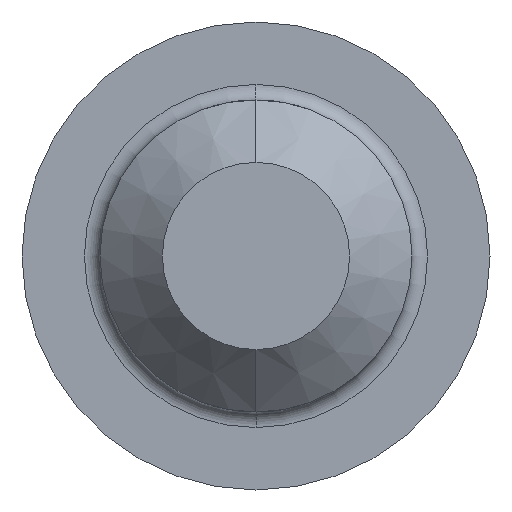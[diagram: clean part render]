
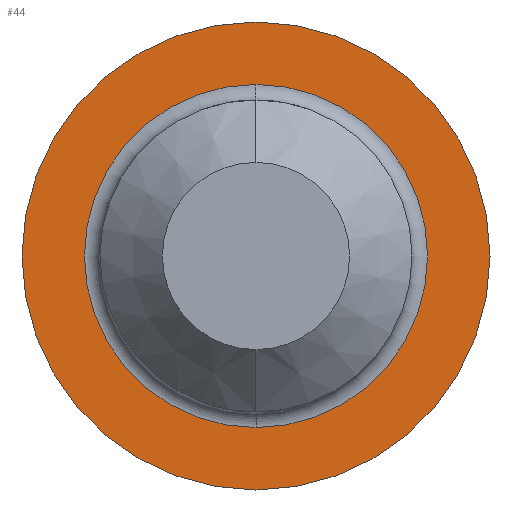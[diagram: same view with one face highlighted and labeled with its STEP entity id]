
A CAD part, left-side view. The second image highlights one B-rep face of the part: STEP entity #44.
In plain terms, the highlighted planar face has unit normal (-1, 0, 0).
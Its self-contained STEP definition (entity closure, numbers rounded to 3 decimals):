
#6 = VERTEX_POINT ( 'NONE', #307 ) ;
#7 = ORIENTED_EDGE ( 'NONE', *, *, #149, .T. ) ;
#9 = EDGE_LOOP ( 'NONE', ( #7, #21 ) ) ;
#11 = EDGE_CURVE ( 'NONE', #155, #6, #278, .T. ) ;
#19 = EDGE_CURVE ( 'NONE', #102, #77, #303, .T. ) ;
#21 = ORIENTED_EDGE ( 'NONE', *, *, #11, .T. ) ;
#22 = ORIENTED_EDGE ( 'NONE', *, *, #19, .T. ) ;
#44 = ADVANCED_FACE ( 'NONE', ( #269, #276 ), #272, .F. ) ;
#47 = ORIENTED_EDGE ( 'NONE', *, *, #76, .T. ) ;
#62 = EDGE_LOOP ( 'NONE', ( #22, #47 ) ) ;
#76 = EDGE_CURVE ( 'NONE', #77, #102, #318, .T. ) ;
#77 = VERTEX_POINT ( 'NONE', #326 ) ;
#102 = VERTEX_POINT ( 'NONE', #286 ) ;
#149 = EDGE_CURVE ( 'NONE', #6, #155, #467, .T. ) ;
#155 = VERTEX_POINT ( 'NONE', #462 ) ;
#226 = DIRECTION ( 'NONE',  ( 1., 0., 0. ) ) ;
#227 = CARTESIAN_POINT ( 'NONE',  ( 0., 4.5, 0. ) ) ;
#241 = DIRECTION ( 'NONE',  ( 0., 0., -1. ) ) ;
#242 = DIRECTION ( 'NONE',  ( 1., 0., 0. ) ) ;
#244 = CARTESIAN_POINT ( 'NONE',  ( 0., 0., 0. ) ) ;
#263 = DIRECTION ( 'NONE',  ( 0., 0., -1. ) ) ;
#269 = FACE_BOUND ( 'NONE', #62, .T. ) ;
#272 = PLANE ( 'NONE',  #302 ) ;
#276 = FACE_OUTER_BOUND ( 'NONE', #9, .T. ) ;
#278 = CIRCLE ( 'NONE', #296, 4.5 ) ;
#286 = CARTESIAN_POINT ( 'NONE',  ( 0., 0., -3.3 ) ) ;
#293 = DIRECTION ( 'NONE',  ( 0., 0., 1. ) ) ;
#294 = DIRECTION ( 'NONE',  ( -1., 0., 0. ) ) ;
#295 = CARTESIAN_POINT ( 'NONE',  ( 0., 0., 0. ) ) ;
#296 = AXIS2_PLACEMENT_3D ( 'NONE', #295, #294, #293 ) ;
#300 = DIRECTION ( 'NONE',  ( 0., 0., -1. ) ) ;
#301 = DIRECTION ( 'NONE',  ( 1., 0., 0. ) ) ;
#302 = AXIS2_PLACEMENT_3D ( 'NONE', #227, #226, #263 ) ;
#303 = CIRCLE ( 'NONE', #349, 3.3 ) ;
#307 = CARTESIAN_POINT ( 'NONE',  ( 0., 0., 4.5 ) ) ;
#318 = CIRCLE ( 'NONE', #341, 3.3 ) ;
#326 = CARTESIAN_POINT ( 'NONE',  ( 0., 0., 3.3 ) ) ;
#341 = AXIS2_PLACEMENT_3D ( 'NONE', #244, #242, #241 ) ;
#348 = CARTESIAN_POINT ( 'NONE',  ( 0., 0., 0. ) ) ;
#349 = AXIS2_PLACEMENT_3D ( 'NONE', #348, #301, #300 ) ;
#458 = DIRECTION ( 'NONE',  ( 0., 0., 1. ) ) ;
#459 = DIRECTION ( 'NONE',  ( -1., 0., 0. ) ) ;
#460 = CARTESIAN_POINT ( 'NONE',  ( 0., 0., 0. ) ) ;
#462 = CARTESIAN_POINT ( 'NONE',  ( 0., 0., -4.5 ) ) ;
#465 = AXIS2_PLACEMENT_3D ( 'NONE', #460, #459, #458 ) ;
#467 = CIRCLE ( 'NONE', #465, 4.5 ) ;
